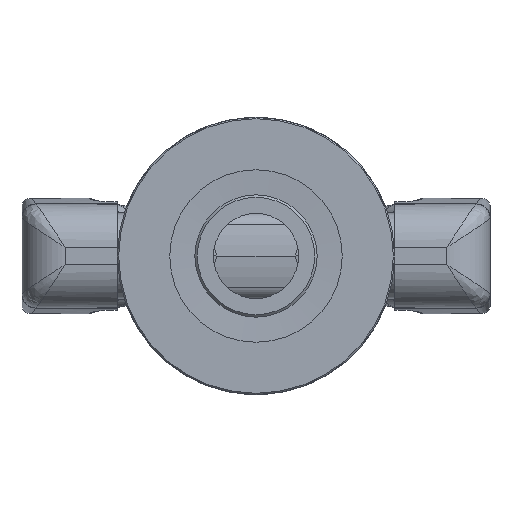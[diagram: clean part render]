
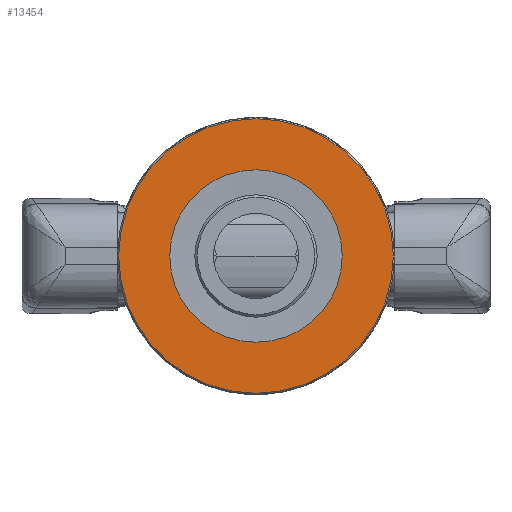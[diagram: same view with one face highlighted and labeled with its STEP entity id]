
A CAD part, front view. The second image highlights one B-rep face of the part: STEP entity #13454.
In plain terms, the highlighted planar face has unit normal (0, -1, 0) as drawn and (0, 0, -1) by its records, which use the part's own axes.
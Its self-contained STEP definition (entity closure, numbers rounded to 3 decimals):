
#282=FACE_BOUND('',#4142,.T.);
#738=CIRCLE('',#14516,22.3);
#740=CIRCLE('',#14520,14.);
#2510=PLANE('',#14519);
#3287=FACE_OUTER_BOUND('',#4141,.T.);
#4141=EDGE_LOOP('',(#12321));
#4142=EDGE_LOOP('',(#12322));
#6274=VERTEX_POINT('',#43536);
#6276=VERTEX_POINT('',#43542);
#8293=EDGE_CURVE('',#6274,#6274,#738,.T.);
#8295=EDGE_CURVE('',#6276,#6276,#740,.T.);
#12321=ORIENTED_EDGE('',*,*,#8293,.F.);
#12322=ORIENTED_EDGE('',*,*,#8295,.F.);
#13454=ADVANCED_FACE('',(#3287,#282),#2510,.F.);
#14516=AXIS2_PLACEMENT_3D('',#43537,#17213,#17214);
#14519=AXIS2_PLACEMENT_3D('',#43541,#17219,#17220);
#14520=AXIS2_PLACEMENT_3D('',#43543,#17221,#17222);
#17213=DIRECTION('center_axis',(0.,0.,1.));
#17214=DIRECTION('ref_axis',(-1.,0.,0.));
#17219=DIRECTION('center_axis',(0.,0.,1.));
#17220=DIRECTION('ref_axis',(1.,0.,0.));
#17221=DIRECTION('center_axis',(0.,0.,-1.));
#17222=DIRECTION('ref_axis',(-1.,0.,0.));
#43536=CARTESIAN_POINT('',(22.3,0.,0.));
#43537=CARTESIAN_POINT('Origin',(0.,0.,0.));
#43541=CARTESIAN_POINT('Origin',(0.,0.,0.));
#43542=CARTESIAN_POINT('',(14.,0.,0.));
#43543=CARTESIAN_POINT('Origin',(0.,0.,0.));
